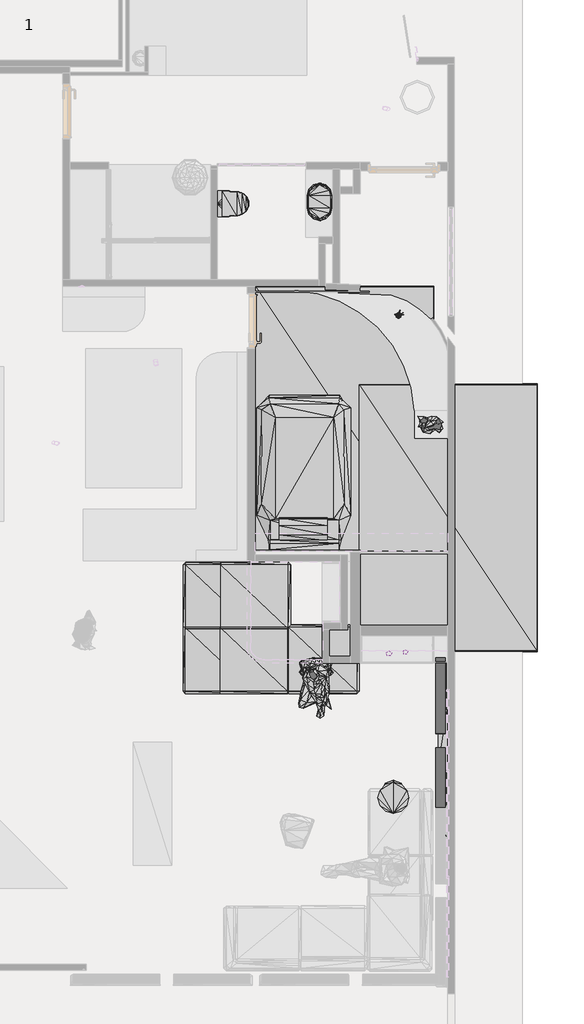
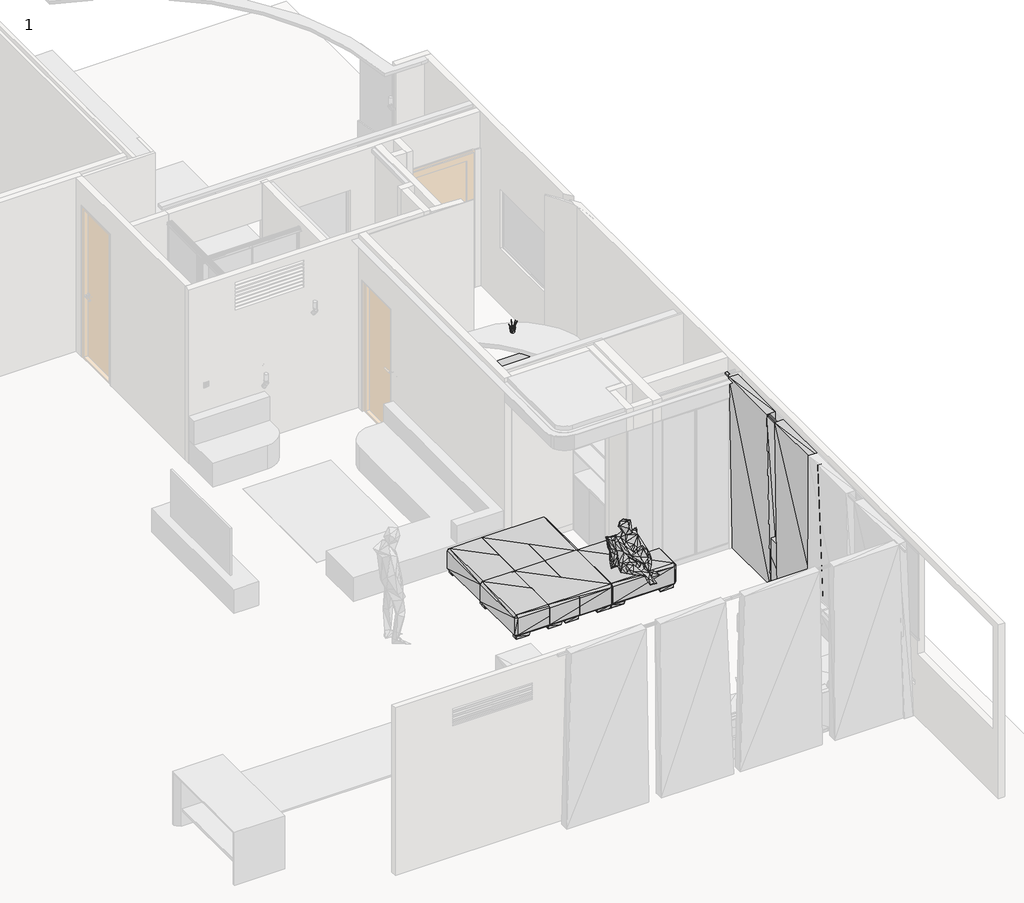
# One storey, part 11 of 11: 22 geographic elements.
"""IFC4 building model written with IfcOpenShell, lengths in millimetres."""

from ifc_helpers import new_model, si_unit, origin, place, context, project, spatial, transform, mapped, element, save
from components import geographic_element_7607d973, geographic_element_5fd375c3, enscape_assetdefinition_bottle_004_champagne_enscape_80ddfa5a, enscape_assetdefinition_bottle_005_wine_enscape_060a0c88, enscape_assetdefinition_pillow_010_enscape_assetdefinition_9ece25b9, enscape_assetdefinition_sofa_037_footstool_enscape_4f601f0b, tempenscape_assetdefinition_bathroom_sink_002_tempenscape_20c72bbc, tempenscape_assetdefinition_curtain_009_tempenscape_1b6ab596, tempenscape_assetdefinition_heater_001_tempenscape_d009f5ff, tempenscape_assetdefinition_pencil_container_001_tempenscape_466b47a7, tempenscape_assetdefinition_potted_plant_090_olive_tree_17f0c885, tempenscape_assetdefinition_rug_006_tempenscape_96f3dc94, tempenscape_assetdefinition_table_038_tempenscape_255356b4, tempenscape_assetdefinition_toilet_001_tempenscape_ed570b02

model = new_model("IFC4")

# Units and contexts
model_context = context("Model", 3, world=origin())
ifc_project = project(units=[si_unit("LENGTHUNIT", "METRE", prefix="MILLI")], contexts=[model_context])

# Site, building, storey
site = spatial("IfcSite", under=ifc_project)
building = spatial("IfcBuilding", under=site)
storey = spatial("IfcBuildingStorey", under=building, Name="1", Elevation=0.0)

# Geographic elements
placement = place(None, origin())
geographic_element_shape = geographic_element_7607d973(model_context)
element("IfcGeographicElement", 1, ObjectType="TempEnscape AssetDefinition - Rea 003 Sitting : TempEnscape AssetDefinition - Rea 003 Sitting", at=placement, inside=storey, context=model_context, shape_type="MappedRepresentation", body=[
    mapped(geographic_element_shape, transform((97657.0863394, 12446.5358144, 442.5632404), x_axis=(1.0, 0.0, 0.0), y_axis=(0.0, 1.0, 0.0), z_axis=(0.0, 0.0, 1.0))),
])
geographic_element_2_shape = geographic_element_5fd375c3(model_context)
element("IfcGeographicElement", 2, ObjectType="Enscape AssetDefinition - Bed 012 100x208 cm (20x82 in) : Enscape AssetDefinition - Bed 012 100x208 cm (20x82 in)", at=placement, inside=storey, context=model_context, shape_type="MappedRepresentation", body=[
    mapped(geographic_element_2_shape, transform((97503.359081, 15416.0304058, 0.0), x_axis=(-1.0, 0.0, 0.0), y_axis=(0.0, -1.0, 0.0), z_axis=(0.0, 0.0, 1.0))),
])
enscape_assetdefinition_bottle_004_champagne_enscape_shape = enscape_assetdefinition_bottle_004_champagne_enscape_80ddfa5a(model_context)
element("IfcGeographicElement", 3, ObjectType="Enscape AssetDefinition - Bottle 004 Champagne : Enscape AssetDefinition - Bottle 004 Champagne", at=placement, inside=storey, context=model_context, shape_type="MappedRepresentation", body=[
    mapped(enscape_assetdefinition_bottle_004_champagne_enscape_shape, transform((98521.7272836, 12856.5358144, 765.2810656), x_axis=(1.0, 0.0, 0.0), y_axis=(0.0, 1.0, 0.0), z_axis=(0.0, 0.0, 1.0))),
])
element("IfcGeographicElement", 4, ObjectType="Enscape AssetDefinition - Bottle 004 Champagne : Enscape AssetDefinition - Bottle 004 Champagne", at=placement, inside=storey, context=model_context, shape_type="MappedRepresentation", body=[
    mapped(enscape_assetdefinition_bottle_004_champagne_enscape_shape, transform((98739.1043164, 12856.5358144, 1565.2810656), x_axis=(1.0, 0.0, 0.0), y_axis=(0.0, 1.0, 0.0), z_axis=(0.0, 0.0, 1.0))),
])
enscape_assetdefinition_bottle_005_wine_enscape_shape = enscape_assetdefinition_bottle_005_wine_enscape_060a0c88(model_context)
element("IfcGeographicElement", 5, ObjectType="Enscape AssetDefinition - Bottle 005 Wine : Enscape AssetDefinition - Bottle 005 Wine", at=placement, inside=storey, context=model_context, shape_type="MappedRepresentation", body=[
    mapped(enscape_assetdefinition_bottle_005_wine_enscape_shape, transform((98764.3502509, 12876.5358144, 765.2810656), x_axis=(1.0, 0.0, 0.0), y_axis=(0.0, 1.0, 0.0), z_axis=(0.0, 0.0, 1.0))),
])
element("IfcGeographicElement", 6, ObjectType="Enscape AssetDefinition - Bottle 005 Wine : Enscape AssetDefinition - Bottle 005 Wine", at=placement, inside=storey, context=model_context, shape_type="MappedRepresentation", body=[
    mapped(enscape_assetdefinition_bottle_005_wine_enscape_shape, transform((98981.7272836, 12876.5358144, 1565.2810656), x_axis=(1.0, 0.0, 0.0), y_axis=(0.0, 1.0, 0.0), z_axis=(0.0, 0.0, 1.0))),
])
enscape_assetdefinition_pillow_010_enscape_assetdefinition_shape = enscape_assetdefinition_pillow_010_enscape_assetdefinition_9ece25b9(model_context)
element("IfcGeographicElement", 7, ObjectType="Enscape AssetDefinition - Pillow 010 : Enscape AssetDefinition - Pillow 010", at=placement, inside=storey, context=model_context, shape_type="MappedRepresentation", body=[
    mapped(enscape_assetdefinition_pillow_010_enscape_assetdefinition_shape, transform((97658.6389678, 12641.4567417, 450.0), x_axis=(1.0, 0.0, 0.0), y_axis=(0.0, 1.0, 0.0), z_axis=(0.0, 0.0, 1.0))),
])
enscape_assetdefinition_sofa_037_footstool_enscape_shape = enscape_assetdefinition_sofa_037_footstool_enscape_4f601f0b(model_context)
element("IfcGeographicElement", 8, ObjectType="Enscape AssetDefinition - Sofa 037 Footstool : Enscape AssetDefinition - Sofa 037 Footstool", at=placement, inside=storey, context=model_context, shape_type="MappedRepresentation", body=[
    mapped(enscape_assetdefinition_sofa_037_footstool_enscape_shape, transform((96768.359081, 13686.0304058, 0.0), x_axis=(1.0, 0.0, 0.0), y_axis=(0.0, 1.0, 0.0), z_axis=(0.0, 0.0, 1.0))),
])
element("IfcGeographicElement", 9, ObjectType="Enscape AssetDefinition - Sofa 037 Footstool : Enscape AssetDefinition - Sofa 037 Footstool", at=placement, inside=storey, context=model_context, shape_type="MappedRepresentation", body=[
    mapped(enscape_assetdefinition_sofa_037_footstool_enscape_shape, transform((96761.7653549, 12769.5312836, 0.0), x_axis=(1.0, 0.0, 0.0), y_axis=(0.0, 1.0, 0.0), z_axis=(0.0, 0.0, 1.0))),
])
element("IfcGeographicElement", 10, ObjectType="Enscape AssetDefinition - Sofa 037 Footstool : Enscape AssetDefinition - Sofa 037 Footstool", at=placement, inside=storey, context=model_context, shape_type="MappedRepresentation", body=[
    mapped(enscape_assetdefinition_sofa_037_footstool_enscape_shape, transform((96258.359081, 13686.0304058, 0.0), x_axis=(1.0, 0.0, 0.0), y_axis=(0.0, 1.0, 0.0), z_axis=(0.0, 0.0, 1.0))),
])
element("IfcGeographicElement", 11, ObjectType="Enscape AssetDefinition - Sofa 037 Footstool : Enscape AssetDefinition - Sofa 037 Footstool", at=placement, inside=storey, context=model_context, shape_type="MappedRepresentation", body=[
    mapped(enscape_assetdefinition_sofa_037_footstool_enscape_shape, transform((96251.7653549, 12769.5312836, 0.0), x_axis=(1.0, 0.0, 0.0), y_axis=(0.0, 1.0, 0.0), z_axis=(0.0, 0.0, 1.0))),
])
element("IfcGeographicElement", 12, ObjectType="Enscape AssetDefinition - Sofa 037 Footstool : Enscape AssetDefinition - Sofa 037 Footstool", at=placement, inside=storey, context=model_context, shape_type="MappedRepresentation", body=[
    mapped(enscape_assetdefinition_sofa_037_footstool_enscape_shape, transform((97766.417864, 12768.9307012, 0.0), x_axis=(1.0, 0.0, 0.0), y_axis=(0.0, 1.0, 0.0), z_axis=(0.0, 0.0, 1.0))),
])
tempenscape_assetdefinition_bathroom_sink_002_tempenscape_shape = tempenscape_assetdefinition_bathroom_sink_002_tempenscape_20c72bbc(model_context)
element("IfcGeographicElement", 13, ObjectType="TempEnscape AssetDefinition - Bathroom Sink 002 : TempEnscape AssetDefinition - Bathroom Sink 002", at=placement, inside=storey, context=model_context, shape_type="MappedRepresentation", body=[
    mapped(tempenscape_assetdefinition_bathroom_sink_002_tempenscape_shape, transform((97723.359081, 19474.6245576, 800.0), x_axis=(0.0, 1.0, 0.0), y_axis=(-1.0, 0.0, 0.0), z_axis=(0.0, 0.0, 1.0))),
])
tempenscape_assetdefinition_curtain_009_tempenscape_shape = tempenscape_assetdefinition_curtain_009_tempenscape_1b6ab596(model_context)
element("IfcGeographicElement", 14, ObjectType="TempEnscape AssetDefinition - Curtain 009 : TempEnscape AssetDefinition - Curtain 009", at=placement, inside=storey, context=model_context, shape_type="MappedRepresentation", body=[
    mapped(tempenscape_assetdefinition_curtain_009_tempenscape_shape, transform((99384.6696818, 11491.7895458, 0.0), x_axis=(0.0, 1.0, 0.0), y_axis=(-1.0, 0.0, 0.0), z_axis=(0.0, 0.0, 1.0))),
])
tempenscape_assetdefinition_heater_001_tempenscape_shape = tempenscape_assetdefinition_heater_001_tempenscape_d009f5ff(model_context)
element("IfcGeographicElement", 15, ObjectType="TempEnscape AssetDefinition - Heater 001 : TempEnscape AssetDefinition - Heater 001", at=placement, inside=storey, context=model_context, shape_type="MappedRepresentation", body=[
    mapped(tempenscape_assetdefinition_heater_001_tempenscape_shape, transform((99459.1043164, 11614.5259381, 0.0), x_axis=(0.0, 1.0, 0.0), y_axis=(-1.0, 0.0, 0.0), z_axis=(0.0, 0.0, 1.0))),
])
element("IfcGeographicElement", 16, ObjectType="TempEnscape AssetDefinition - Heater 001 : TempEnscape AssetDefinition - Heater 001", at=placement, inside=storey, context=model_context, shape_type="MappedRepresentation", body=[
    mapped(tempenscape_assetdefinition_heater_001_tempenscape_shape, transform((99489.8270097, 16534.3597181, -120.0), x_axis=(0.0, 1.0, 0.0), y_axis=(-1.0, 0.0, 0.0), z_axis=(0.0, 0.0, 1.0))),
])
tempenscape_assetdefinition_pencil_container_001_tempenscape_shape = tempenscape_assetdefinition_pencil_container_001_tempenscape_466b47a7(model_context)
element("IfcGeographicElement", 17, ObjectType="TempEnscape AssetDefinition - Pencil Container 001 : TempEnscape AssetDefinition - Pencil Container 001", at=placement, inside=storey, context=model_context, shape_type="MappedRepresentation", body=[
    mapped(tempenscape_assetdefinition_pencil_container_001_tempenscape_shape, transform((98878.9736341, 17810.3450807, 753.8563136), x_axis=(1.0, 0.0, 0.0), y_axis=(0.0, 1.0, 0.0), z_axis=(0.0, 0.0, 1.0))),
])
tempenscape_assetdefinition_potted_plant_090_olive_tree_shape = tempenscape_assetdefinition_potted_plant_090_olive_tree_17f0c885(model_context)
element("IfcGeographicElement", 18, ObjectType="TempEnscape AssetDefinition - Potted Plant 090 Olive Tree : TempEnscape AssetDefinition - Potted Plant 090 Olive Tree", at=placement, inside=storey, context=model_context, shape_type="MappedRepresentation", body=[
    mapped(tempenscape_assetdefinition_potted_plant_090_olive_tree_shape, transform((99324.3502509, 16211.7522633, 682.5860218), x_axis=(1.0, 0.0, 0.0), y_axis=(0.0, 1.0, 0.0), z_axis=(0.0, 0.0, 1.0))),
])
tempenscape_assetdefinition_rug_006_tempenscape_shape = tempenscape_assetdefinition_rug_006_tempenscape_96f3dc94(model_context)
element("IfcGeographicElement", 19, ObjectType="TempEnscape AssetDefinition - Rug 006 : TempEnscape AssetDefinition - Rug 006", at=placement, inside=storey, context=model_context, shape_type="MappedRepresentation", body=[
    mapped(tempenscape_assetdefinition_rug_006_tempenscape_shape, transform((98089.1043164, 16278.3892253, 0.0), x_axis=(1.0, 0.0, 0.0), y_axis=(0.0, 1.0, 0.0), z_axis=(0.0, 0.0, 1.0))),
])
element("IfcGeographicElement", 20, ObjectType="TempEnscape AssetDefinition - Rug 006 : TempEnscape AssetDefinition - Rug 006", at=placement, inside=storey, context=model_context, shape_type="MappedRepresentation", body=[
    mapped(tempenscape_assetdefinition_rug_006_tempenscape_shape, transform((99604.3502509, 14845.950834, 0.0), x_axis=(1.0, 0.0, 0.0), y_axis=(0.0, 1.0, 0.0), z_axis=(0.0, 0.0, 1.0))),
])
tempenscape_assetdefinition_table_038_tempenscape_shape = tempenscape_assetdefinition_table_038_tempenscape_255356b4(model_context)
element("IfcGeographicElement", 21, ObjectType="TempEnscape AssetDefinition - Table 038 : TempEnscape AssetDefinition - Table 038", at=placement, inside=storey, context=model_context, shape_type="MappedRepresentation", body=[
    mapped(tempenscape_assetdefinition_table_038_tempenscape_shape, transform((98804.3502509, 10741.1149581, 0.0), x_axis=(1.0, 0.0, 0.0), y_axis=(0.0, 1.0, 0.0), z_axis=(0.0, 0.0, 1.0))),
])
tempenscape_assetdefinition_toilet_001_tempenscape_shape = tempenscape_assetdefinition_toilet_001_tempenscape_ed570b02(model_context)
element("IfcGeographicElement", 22, ObjectType="TempEnscape AssetDefinition - Toilet 001 : TempEnscape AssetDefinition - Toilet 001", at=placement, inside=storey, context=model_context, shape_type="MappedRepresentation", body=[
    mapped(tempenscape_assetdefinition_toilet_001_tempenscape_shape, transform((96224.9879055, 19447.6006724, 100.0), x_axis=(0.0, 1.0, 0.0), y_axis=(-1.0, 0.0, 0.0), z_axis=(0.0, 0.0, 1.0))),
])

save(model, "model.ifc")
